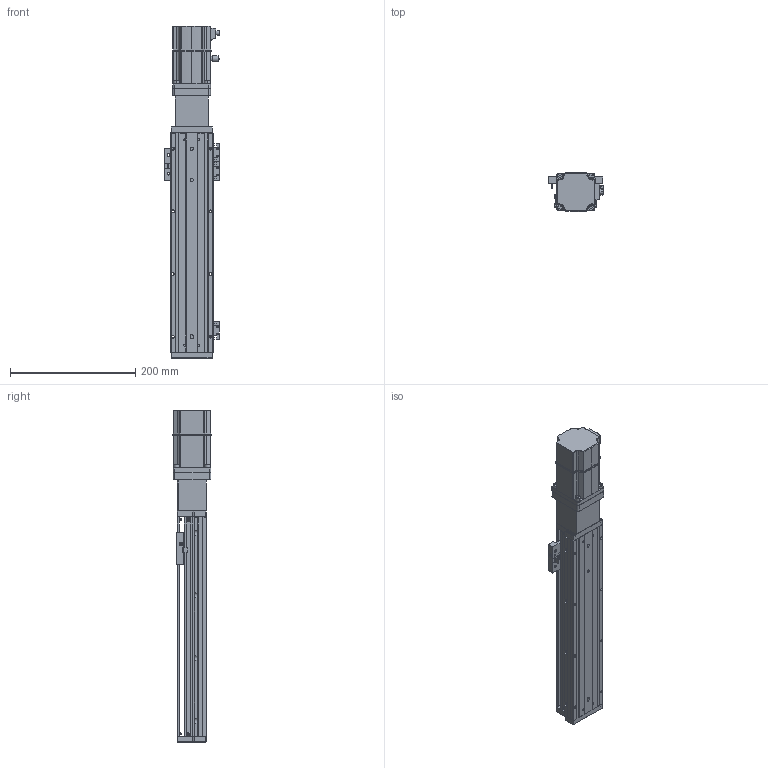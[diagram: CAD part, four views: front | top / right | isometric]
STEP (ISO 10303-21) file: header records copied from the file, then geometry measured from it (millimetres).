
FILE_DESCRIPTION (( 'STEP AP203' ), '1' );
FILE_NAME ('KTHA60-250-BC-M20-C4L.step', '2022-12-16T01:28:29', ( '微软用户' ), ( '微软中国' ), 'SwSTEP 2.0', 'SolidWorks 2020', '' );
FILE_SCHEMA (( 'CONFIG_CONTROL_DESIGN' ));
Length unit declared in the file: millimetre
Products named in the file (18): CTHA60-013; CTHA60-017; GB¨uT 70.2-M3¡Á5_M3¡Á6; CTHA60-027; CTHA60-021; GBT 70.3-M3℅6; KTHA60-002; GBT 70.1-M4×16; EE_SX911P_R; CTHA60-006-3_M20B; GBT77-2000M3-3; _X2_4E0983F1_X0_200W_1; KTHA60-001_350; GBT 70.1-M3℅6; KTHA60-250-BC-M20-C4L; KTHA60-004; CTHA60-016; KTHA60-005
Assembly tree (50 placements, depth 2):
  KTHA60-250-BC-M20-C4L
    KTHA60-001_350
    KTHA60-004
    KTHA60-005
    GB¨uT 70.2-M3¡Á5_M3¡Á6  x6
    GBT 70.3-M3℅6  x6
    EE_SX911P_R  x3
    CTHA60-017  x3
    CTHA60-021  x2
    GBT 70.1-M4×16  x8
    GBT77-2000M3-3  x6
    GBT 70.1-M3℅6  x6
    CTHA60-016  x2
    CTHA60-013
    CTHA60-027
    KTHA60-002
    CTHA60-006-3_M20B
    _X2_4E0983F1_X0_200W_1
Bounding box: 87.72 x 62.42 x 529.7 mm (x, y, z)
Volume: 1114141.7 mm3; surface area: 258271 mm2
Topology: 53 solids, 53 shells, 2255 faces, 5315 edges, 3248 vertices
Faces by surface type: plane 1220, cylinder 576, cone 294, torus 80, bspline 69, sphere 16
Entity records: 38893 total; most frequent: CARTESIAN_POINT 7568, DIRECTION 6048, ORIENTED_EDGE 5834, EDGE_CURVE 2917, AXIS2_PLACEMENT_3D 2081, VECTOR 1886, LINE 1886, VERTEX_POINT 1815
